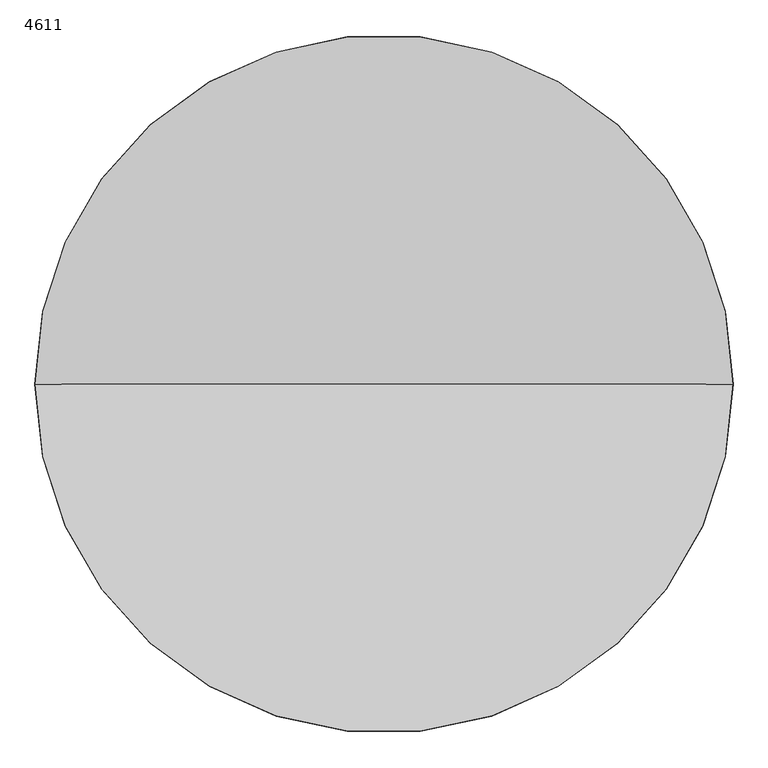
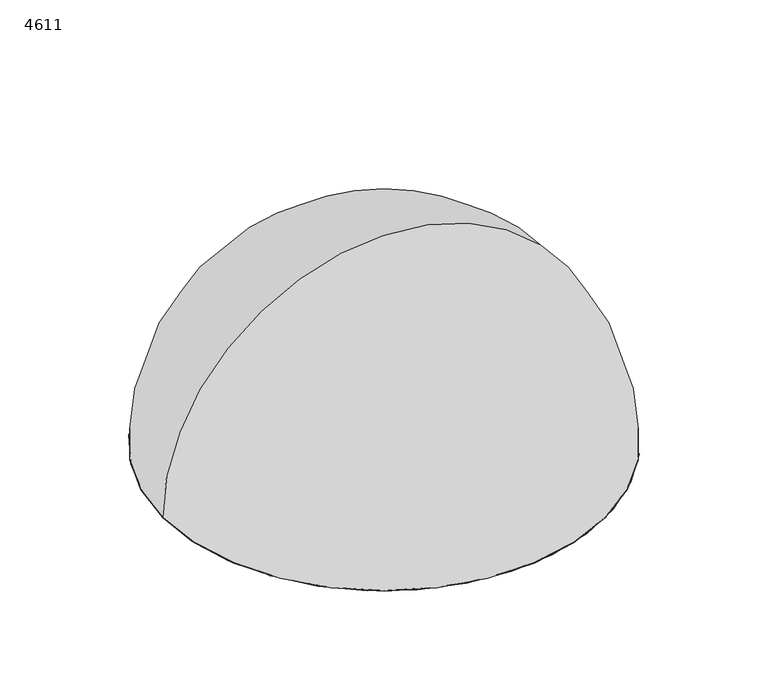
"""IFC4 building model written with IfcOpenShell, lengths in millimetres: alarm geometry, 4611_Wireless Smoke Detector with Siren : 4611."""

from ifc_helpers import new_model, si_unit, point, frame, frame_2d, origin, origin_with_axes, origin_2d, place, context, project, spatial, circle_curve, ellipse_curve, trimmed, segment, composite_curve, outline, extrude, source, transform, mapped, element, save
from ifc_brep_helpers import plane_surface, revolved_surface, advanced_brep


def alarm_4611_5c380d62(model_context):
    return source(origin(), model_context, "Body", "SolidModel", [
        extrude(outline(composite_curve([segment(trimmed(circle_curve(origin_2d(), 25.0), [point((-25.0, 0.0))], [point((25.0, 0.0))], False, "CARTESIAN"), True, "CONTINUOUS"), segment(trimmed(circle_curve(origin_2d(), 25.0), [point((25.0, 0.0))], [point((-25.0, 0.0))], False, "CARTESIAN"), True, "CONTINUOUS")], self_intersect=False), holes=[composite_curve([segment(trimmed(circle_curve(origin_2d(), 0.993292), [point((-0.993292, 0.0))], [point((0.993292, 0.0))], True, "CARTESIAN"), True, "CONTINUOUS"), segment(trimmed(circle_curve(origin_2d(), 0.993292), [point((0.993292, 0.0))], [point((-0.993292, 0.0))], True, "CARTESIAN"), True, "CONTINUOUS")], self_intersect=False), composite_curve([segment(trimmed(circle_curve(frame_2d((-2.5895904, 1.4061383)), 0.8), [point((-3.3895904, 1.4061383))], [point((-1.7895904, 1.4061383))], True, "CARTESIAN"), True, "CONTINUOUS"), segment(trimmed(circle_curve(frame_2d((-2.5895904, 1.4061383)), 0.8), [point((-1.7895904, 1.4061383))], [point((-3.3895904, 1.4061383))], True, "CARTESIAN"), True, "CONTINUOUS")], self_intersect=False), composite_curve([segment(trimmed(circle_curve(frame_2d((-5.1791808, 2.8122766)), 0.8), [point((-5.9791808, 2.8122766))], [point((-4.3791808, 2.8122766))], True, "CARTESIAN"), True, "CONTINUOUS"), segment(trimmed(circle_curve(frame_2d((-5.1791808, 2.8122766)), 0.8), [point((-4.3791808, 2.8122766))], [point((-5.9791808, 2.8122766))], True, "CARTESIAN"), True, "CONTINUOUS")], self_intersect=False), composite_curve([segment(trimmed(circle_curve(frame_2d((-7.7687712, 4.2184149)), 0.8), [point((-8.5687712, 4.2184149))], [point((-6.9687712, 4.2184149))], True, "CARTESIAN"), True, "CONTINUOUS"), segment(trimmed(circle_curve(frame_2d((-7.7687712, 4.2184149)), 0.8), [point((-6.9687712, 4.2184149))], [point((-8.5687712, 4.2184149))], True, "CARTESIAN"), True, "CONTINUOUS")], self_intersect=False), composite_curve([segment(trimmed(circle_curve(frame_2d((-10.3583616, 5.6245532)), 0.8), [point((-11.1583616, 5.6245532))], [point((-9.5583616, 5.6245532))], True, "CARTESIAN"), True, "CONTINUOUS"), segment(trimmed(circle_curve(frame_2d((-10.3583616, 5.6245532)), 0.8), [point((-9.5583616, 5.6245532))], [point((-11.1583616, 5.6245532))], True, "CARTESIAN"), True, "CONTINUOUS")], self_intersect=False), composite_curve([segment(trimmed(circle_curve(frame_2d((-12.947952, 7.0306915)), 0.8), [point((-13.747952, 7.0306915))], [point((-12.147952, 7.0306915))], True, "CARTESIAN"), True, "CONTINUOUS"), segment(trimmed(circle_curve(frame_2d((-12.947952, 7.0306915)), 0.8), [point((-12.147952, 7.0306915))], [point((-13.747952, 7.0306915))], True, "CARTESIAN"), True, "CONTINUOUS")], self_intersect=False), composite_curve([segment(trimmed(circle_curve(frame_2d((-2.5895904, -1.4061383)), 0.8), [point((-3.3895904, -1.4061383))], [point((-1.7895904, -1.4061383))], True, "CARTESIAN"), True, "CONTINUOUS"), segment(trimmed(circle_curve(frame_2d((-2.5895904, -1.4061383)), 0.8), [point((-1.7895904, -1.4061383))], [point((-3.3895904, -1.4061383))], True, "CARTESIAN"), True, "CONTINUOUS")], self_intersect=False), composite_curve([segment(trimmed(circle_curve(frame_2d((-5.1791808, -2.8122766)), 0.8), [point((-5.9791808, -2.8122766))], [point((-4.3791808, -2.8122766))], True, "CARTESIAN"), True, "CONTINUOUS"), segment(trimmed(circle_curve(frame_2d((-5.1791808, -2.8122766)), 0.8), [point((-4.3791808, -2.8122766))], [point((-5.9791808, -2.8122766))], True, "CARTESIAN"), True, "CONTINUOUS")], self_intersect=False), composite_curve([segment(trimmed(circle_curve(frame_2d((-7.7687712, -4.2184149)), 0.8), [point((-8.5687712, -4.2184149))], [point((-6.9687712, -4.2184149))], True, "CARTESIAN"), True, "CONTINUOUS"), segment(trimmed(circle_curve(frame_2d((-7.7687712, -4.2184149)), 0.8), [point((-6.9687712, -4.2184149))], [point((-8.5687712, -4.2184149))], True, "CARTESIAN"), True, "CONTINUOUS")], self_intersect=False), composite_curve([segment(trimmed(circle_curve(frame_2d((-10.3583616, -5.6245532)), 0.8), [point((-11.1583616, -5.6245532))], [point((-9.5583616, -5.6245532))], True, "CARTESIAN"), True, "CONTINUOUS"), segment(trimmed(circle_curve(frame_2d((-10.3583616, -5.6245532)), 0.8), [point((-9.5583616, -5.6245532))], [point((-11.1583616, -5.6245532))], True, "CARTESIAN"), True, "CONTINUOUS")], self_intersect=False), composite_curve([segment(trimmed(circle_curve(frame_2d((-12.947952, -7.0306915)), 0.8), [point((-13.747952, -7.0306915))], [point((-12.147952, -7.0306915))], True, "CARTESIAN"), True, "CONTINUOUS"), segment(trimmed(circle_curve(frame_2d((-12.947952, -7.0306915)), 0.8), [point((-12.147952, -7.0306915))], [point((-13.747952, -7.0306915))], True, "CARTESIAN"), True, "CONTINUOUS")], self_intersect=False), composite_curve([segment(trimmed(circle_curve(frame_2d((2.5895904, 1.4061383)), 0.8), [point((3.3895904, 1.4061383))], [point((1.7895904, 1.4061383))], True, "CARTESIAN"), True, "CONTINUOUS"), segment(trimmed(circle_curve(frame_2d((2.5895904, 1.4061383)), 0.8), [point((1.7895904, 1.4061383))], [point((3.3895904, 1.4061383))], True, "CARTESIAN"), True, "CONTINUOUS")], self_intersect=False), composite_curve([segment(trimmed(circle_curve(frame_2d((5.1791808, 2.8122766)), 0.8), [point((5.9791808, 2.8122766))], [point((4.3791808, 2.8122766))], True, "CARTESIAN"), True, "CONTINUOUS"), segment(trimmed(circle_curve(frame_2d((5.1791808, 2.8122766)), 0.8), [point((4.3791808, 2.8122766))], [point((5.9791808, 2.8122766))], True, "CARTESIAN"), True, "CONTINUOUS")], self_intersect=False), composite_curve([segment(trimmed(circle_curve(frame_2d((7.7687712, 4.2184149)), 0.8), [point((8.5687712, 4.2184149))], [point((6.9687712, 4.2184149))], True, "CARTESIAN"), True, "CONTINUOUS"), segment(trimmed(circle_curve(frame_2d((7.7687712, 4.2184149)), 0.8), [point((6.9687712, 4.2184149))], [point((8.5687712, 4.2184149))], True, "CARTESIAN"), True, "CONTINUOUS")], self_intersect=False), composite_curve([segment(trimmed(circle_curve(frame_2d((10.3583616, 5.6245532)), 0.8), [point((11.1583616, 5.6245532))], [point((9.5583616, 5.6245532))], True, "CARTESIAN"), True, "CONTINUOUS"), segment(trimmed(circle_curve(frame_2d((10.3583616, 5.6245532)), 0.8), [point((9.5583616, 5.6245532))], [point((11.1583616, 5.6245532))], True, "CARTESIAN"), True, "CONTINUOUS")], self_intersect=False), composite_curve([segment(trimmed(circle_curve(frame_2d((12.947952, 7.0306915)), 0.8), [point((13.747952, 7.0306915))], [point((12.147952, 7.0306915))], True, "CARTESIAN"), True, "CONTINUOUS"), segment(trimmed(circle_curve(frame_2d((12.947952, 7.0306915)), 0.8), [point((12.147952, 7.0306915))], [point((13.747952, 7.0306915))], True, "CARTESIAN"), True, "CONTINUOUS")], self_intersect=False), composite_curve([segment(trimmed(circle_curve(frame_2d((2.5895904, -1.4061383)), 0.8), [point((3.3895904, -1.4061383))], [point((1.7895904, -1.4061383))], True, "CARTESIAN"), True, "CONTINUOUS"), segment(trimmed(circle_curve(frame_2d((2.5895904, -1.4061383)), 0.8), [point((1.7895904, -1.4061383))], [point((3.3895904, -1.4061383))], True, "CARTESIAN"), True, "CONTINUOUS")], self_intersect=False), composite_curve([segment(trimmed(circle_curve(frame_2d((5.1791808, -2.8122766)), 0.8), [point((5.9791808, -2.8122766))], [point((4.3791808, -2.8122766))], True, "CARTESIAN"), True, "CONTINUOUS"), segment(trimmed(circle_curve(frame_2d((5.1791808, -2.8122766)), 0.8), [point((4.3791808, -2.8122766))], [point((5.9791808, -2.8122766))], True, "CARTESIAN"), True, "CONTINUOUS")], self_intersect=False), composite_curve([segment(trimmed(circle_curve(frame_2d((7.7687712, -4.2184149)), 0.8), [point((8.5687712, -4.2184149))], [point((6.9687712, -4.2184149))], True, "CARTESIAN"), True, "CONTINUOUS"), segment(trimmed(circle_curve(frame_2d((7.7687712, -4.2184149)), 0.8), [point((6.9687712, -4.2184149))], [point((8.5687712, -4.2184149))], True, "CARTESIAN"), True, "CONTINUOUS")], self_intersect=False), composite_curve([segment(trimmed(circle_curve(frame_2d((10.3583616, -5.6245532)), 0.8), [point((11.1583616, -5.6245532))], [point((9.5583616, -5.6245532))], True, "CARTESIAN"), True, "CONTINUOUS"), segment(trimmed(circle_curve(frame_2d((10.3583616, -5.6245532)), 0.8), [point((9.5583616, -5.6245532))], [point((11.1583616, -5.6245532))], True, "CARTESIAN"), True, "CONTINUOUS")], self_intersect=False), composite_curve([segment(trimmed(circle_curve(frame_2d((12.947952, -7.0306915)), 0.8), [point((13.747952, -7.0306915))], [point((12.147952, -7.0306915))], True, "CARTESIAN"), True, "CONTINUOUS"), segment(trimmed(circle_curve(frame_2d((12.947952, -7.0306915)), 0.8), [point((12.147952, -7.0306915))], [point((13.747952, -7.0306915))], True, "CARTESIAN"), True, "CONTINUOUS")], self_intersect=False), composite_curve([segment(trimmed(circle_curve(frame_2d((0.0770437, -2.9457202)), 0.8), [point((0.4770437, -3.6385405))], [point((-0.3229563, -2.2528999))], True, "CARTESIAN"), True, "CONTINUOUS"), segment(trimmed(circle_curve(frame_2d((0.0770437, -2.9457202)), 0.8), [point((-0.3229563, -2.2528999))], [point((0.4770437, -3.6385405))], True, "CARTESIAN"), True, "CONTINUOUS")], self_intersect=False), composite_curve([segment(trimmed(circle_curve(frame_2d((0.0770437, 2.9457202)), 0.8), [point((0.4770437, 3.6385405))], [point((-0.3229563, 2.2528999))], True, "CARTESIAN"), True, "CONTINUOUS"), segment(trimmed(circle_curve(frame_2d((0.0770437, 2.9457202)), 0.8), [point((-0.3229563, 2.2528999))], [point((0.4770437, 3.6385405))], True, "CARTESIAN"), True, "CONTINUOUS")], self_intersect=False), composite_curve([segment(trimmed(circle_curve(frame_2d((0.1540874, 5.8914405)), 0.8), [point((0.5540874, 6.5842608))], [point((-0.2459126, 5.1986201))], True, "CARTESIAN"), True, "CONTINUOUS"), segment(trimmed(circle_curve(frame_2d((0.1540874, 5.8914405)), 0.8), [point((-0.2459126, 5.1986201))], [point((0.5540874, 6.5842608))], True, "CARTESIAN"), True, "CONTINUOUS")], self_intersect=False), composite_curve([segment(trimmed(circle_curve(frame_2d((0.2311312, 8.8371607)), 0.8), [point((0.6311312, 9.529981))], [point((-0.1688688, 8.1443404))], True, "CARTESIAN"), True, "CONTINUOUS"), segment(trimmed(circle_curve(frame_2d((0.2311312, 8.8371607)), 0.8), [point((-0.1688688, 8.1443404))], [point((0.6311312, 9.529981))], True, "CARTESIAN"), True, "CONTINUOUS")], self_intersect=False), composite_curve([segment(trimmed(circle_curve(frame_2d((0.3081749, 11.7828809)), 0.8), [point((0.7081749, 12.4757012))], [point((-0.0918251, 11.0900606))], True, "CARTESIAN"), True, "CONTINUOUS"), segment(trimmed(circle_curve(frame_2d((0.3081749, 11.7828809)), 0.8), [point((-0.0918251, 11.0900606))], [point((0.7081749, 12.4757012))], True, "CARTESIAN"), True, "CONTINUOUS")], self_intersect=False), composite_curve([segment(trimmed(circle_curve(frame_2d((0.3852186, 14.7286011)), 0.8), [point((0.7852186, 15.4214215))], [point((-0.0147814, 14.0357808))], True, "CARTESIAN"), True, "CONTINUOUS"), segment(trimmed(circle_curve(frame_2d((0.3852186, 14.7286011)), 0.8), [point((-0.0147814, 14.0357808))], [point((0.7852186, 15.4214215))], True, "CARTESIAN"), True, "CONTINUOUS")], self_intersect=False), composite_curve([segment(trimmed(circle_curve(frame_2d((0.1540874, -5.8914405)), 0.8), [point((0.5540874, -6.5842608))], [point((-0.2459126, -5.1986201))], True, "CARTESIAN"), True, "CONTINUOUS"), segment(trimmed(circle_curve(frame_2d((0.1540874, -5.8914405)), 0.8), [point((-0.2459126, -5.1986201))], [point((0.5540874, -6.5842608))], True, "CARTESIAN"), True, "CONTINUOUS")], self_intersect=False), composite_curve([segment(trimmed(circle_curve(frame_2d((0.2311312, -8.8371607)), 0.8), [point((0.6311312, -9.529981))], [point((-0.1688688, -8.1443404))], True, "CARTESIAN"), True, "CONTINUOUS"), segment(trimmed(circle_curve(frame_2d((0.2311312, -8.8371607)), 0.8), [point((-0.1688688, -8.1443404))], [point((0.6311312, -9.529981))], True, "CARTESIAN"), True, "CONTINUOUS")], self_intersect=False), composite_curve([segment(trimmed(circle_curve(frame_2d((0.3081749, -11.7828809)), 0.8), [point((0.7081749, -12.4757012))], [point((-0.0918251, -11.0900606))], True, "CARTESIAN"), True, "CONTINUOUS"), segment(trimmed(circle_curve(frame_2d((0.3081749, -11.7828809)), 0.8), [point((-0.0918251, -11.0900606))], [point((0.7081749, -12.4757012))], True, "CARTESIAN"), True, "CONTINUOUS")], self_intersect=False), composite_curve([segment(trimmed(circle_curve(frame_2d((0.3852186, -14.7286011)), 0.8), [point((0.7852186, -15.4214215))], [point((-0.0147814, -14.0357808))], True, "CARTESIAN"), True, "CONTINUOUS"), segment(trimmed(circle_curve(frame_2d((0.3852186, -14.7286011)), 0.8), [point((-0.0147814, -14.0357808))], [point((0.7852186, -15.4214215))], True, "CARTESIAN"), True, "CONTINUOUS")], self_intersect=False), composite_curve([segment(trimmed(circle_curve(frame_2d((-6.2462524, -0.1194786)), 0.8), [point((-7.0462524, -0.1194786))], [point((-5.4462524, -0.1194786))], True, "CARTESIAN"), True, "CONTINUOUS"), segment(trimmed(circle_curve(frame_2d((-6.2462524, -0.1194786)), 0.8), [point((-5.4462524, -0.1194786))], [point((-7.0462524, -0.1194786))], True, "CARTESIAN"), True, "CONTINUOUS")], self_intersect=False), composite_curve([segment(trimmed(circle_curve(frame_2d((-8.9897143, 1.4644599)), 0.8), [point((-9.7897143, 1.4644599))], [point((-8.1897143, 1.4644599))], True, "CARTESIAN"), True, "CONTINUOUS"), segment(trimmed(circle_curve(frame_2d((-8.9897143, 1.4644599)), 0.8), [point((-8.1897143, 1.4644599))], [point((-9.7897143, 1.4644599))], True, "CARTESIAN"), True, "CONTINUOUS")], self_intersect=False), composite_curve([segment(trimmed(circle_curve(frame_2d((-8.9897143, -1.5535271)), 0.8), [point((-9.7897143, -1.5535271))], [point((-8.1897143, -1.5535271))], True, "CARTESIAN"), True, "CONTINUOUS"), segment(trimmed(circle_curve(frame_2d((-8.9897143, -1.5535271)), 0.8), [point((-8.1897143, -1.5535271))], [point((-9.7897143, -1.5535271))], True, "CARTESIAN"), True, "CONTINUOUS")], self_intersect=False), composite_curve([segment(trimmed(circle_curve(frame_2d((-11.8348046, -3.1961407)), 0.8), [point((-12.6348046, -3.1961407))], [point((-11.0348046, -3.1961407))], True, "CARTESIAN"), True, "CONTINUOUS"), segment(trimmed(circle_curve(frame_2d((-11.8348046, -3.1961407)), 0.8), [point((-11.0348046, -3.1961407))], [point((-12.6348046, -3.1961407))], True, "CARTESIAN"), True, "CONTINUOUS")], self_intersect=False), composite_curve([segment(trimmed(circle_curve(frame_2d((-12.1074802, -0.0794443)), 0.8), [point((-12.9074802, -0.0794443))], [point((-11.3074802, -0.0794443))], True, "CARTESIAN"), True, "CONTINUOUS"), segment(trimmed(circle_curve(frame_2d((-12.1074802, -0.0794443)), 0.8), [point((-11.3074802, -0.0794443))], [point((-12.9074802, -0.0794443))], True, "CARTESIAN"), True, "CONTINUOUS")], self_intersect=False), composite_curve([segment(trimmed(circle_curve(frame_2d((-11.837374, 3.0078843)), 0.8), [point((-12.637374, 3.0078843))], [point((-11.037374, 3.0078843))], True, "CARTESIAN"), True, "CONTINUOUS"), segment(trimmed(circle_curve(frame_2d((-11.837374, 3.0078843)), 0.8), [point((-11.037374, 3.0078843))], [point((-12.637374, 3.0078843))], True, "CARTESIAN"), True, "CONTINUOUS")], self_intersect=False), composite_curve([segment(trimmed(circle_curve(frame_2d((-14.34077, 4.1752371)), 0.8), [point((-15.14077, 4.1752371))], [point((-13.54077, 4.1752371))], True, "CARTESIAN"), True, "CONTINUOUS"), segment(trimmed(circle_curve(frame_2d((-14.34077, 4.1752371)), 0.8), [point((-13.54077, 4.1752371))], [point((-15.14077, 4.1752371))], True, "CARTESIAN"), True, "CONTINUOUS")], self_intersect=False), composite_curve([segment(trimmed(circle_curve(frame_2d((-15.1438852, 1.1779703)), 0.8), [point((-15.9438852, 1.1779703))], [point((-14.3438852, 1.1779703))], True, "CARTESIAN"), True, "CONTINUOUS"), segment(trimmed(circle_curve(frame_2d((-15.1438852, 1.1779703)), 0.8), [point((-14.3438852, 1.1779703))], [point((-15.9438852, 1.1779703))], True, "CARTESIAN"), True, "CONTINUOUS")], self_intersect=False), composite_curve([segment(trimmed(circle_curve(frame_2d((-15.1438852, -1.9598847)), 0.8), [point((-15.9438852, -1.9598847))], [point((-14.3438852, -1.9598847))], True, "CARTESIAN"), True, "CONTINUOUS"), segment(trimmed(circle_curve(frame_2d((-15.1438852, -1.9598847)), 0.8), [point((-14.3438852, -1.9598847))], [point((-15.9438852, -1.9598847))], True, "CARTESIAN"), True, "CONTINUOUS")], self_intersect=False), composite_curve([segment(trimmed(circle_curve(frame_2d((-14.647898, -4.7727679)), 0.8), [point((-15.447898, -4.7727679))], [point((-13.847898, -4.7727679))], True, "CARTESIAN"), True, "CONTINUOUS"), segment(trimmed(circle_curve(frame_2d((-14.647898, -4.7727679)), 0.8), [point((-13.847898, -4.7727679))], [point((-15.447898, -4.7727679))], True, "CARTESIAN"), True, "CONTINUOUS")], self_intersect=False), composite_curve([segment(trimmed(circle_curve(frame_2d((6.2462524, -0.1194786)), 0.8), [point((7.0462524, -0.1194786))], [point((5.4462524, -0.1194786))], True, "CARTESIAN"), True, "CONTINUOUS"), segment(trimmed(circle_curve(frame_2d((6.2462524, -0.1194786)), 0.8), [point((5.4462524, -0.1194786))], [point((7.0462524, -0.1194786))], True, "CARTESIAN"), True, "CONTINUOUS")], self_intersect=False), composite_curve([segment(trimmed(circle_curve(frame_2d((8.9897143, 1.4644599)), 0.8), [point((9.7897143, 1.4644599))], [point((8.1897143, 1.4644599))], True, "CARTESIAN"), True, "CONTINUOUS"), segment(trimmed(circle_curve(frame_2d((8.9897143, 1.4644599)), 0.8), [point((8.1897143, 1.4644599))], [point((9.7897143, 1.4644599))], True, "CARTESIAN"), True, "CONTINUOUS")], self_intersect=False), composite_curve([segment(trimmed(circle_curve(frame_2d((8.9897143, -1.5535271)), 0.8), [point((9.7897143, -1.5535271))], [point((8.1897143, -1.5535271))], True, "CARTESIAN"), True, "CONTINUOUS"), segment(trimmed(circle_curve(frame_2d((8.9897143, -1.5535271)), 0.8), [point((8.1897143, -1.5535271))], [point((9.7897143, -1.5535271))], True, "CARTESIAN"), True, "CONTINUOUS")], self_intersect=False), composite_curve([segment(trimmed(circle_curve(frame_2d((11.8348046, -3.1961407)), 0.8), [point((12.6348046, -3.1961407))], [point((11.0348046, -3.1961407))], True, "CARTESIAN"), True, "CONTINUOUS"), segment(trimmed(circle_curve(frame_2d((11.8348046, -3.1961407)), 0.8), [point((11.0348046, -3.1961407))], [point((12.6348046, -3.1961407))], True, "CARTESIAN"), True, "CONTINUOUS")], self_intersect=False), composite_curve([segment(trimmed(circle_curve(frame_2d((12.1074802, -0.0794443)), 0.8), [point((12.9074802, -0.0794443))], [point((11.3074802, -0.0794443))], True, "CARTESIAN"), True, "CONTINUOUS"), segment(trimmed(circle_curve(frame_2d((12.1074802, -0.0794443)), 0.8), [point((11.3074802, -0.0794443))], [point((12.9074802, -0.0794443))], True, "CARTESIAN"), True, "CONTINUOUS")], self_intersect=False), composite_curve([segment(trimmed(circle_curve(frame_2d((11.837374, 3.0078843)), 0.8), [point((12.637374, 3.0078843))], [point((11.037374, 3.0078843))], True, "CARTESIAN"), True, "CONTINUOUS"), segment(trimmed(circle_curve(frame_2d((11.837374, 3.0078843)), 0.8), [point((11.037374, 3.0078843))], [point((12.637374, 3.0078843))], True, "CARTESIAN"), True, "CONTINUOUS")], self_intersect=False), composite_curve([segment(trimmed(circle_curve(frame_2d((14.34077, 4.1752371)), 0.8), [point((15.14077, 4.1752371))], [point((13.54077, 4.1752371))], True, "CARTESIAN"), True, "CONTINUOUS"), segment(trimmed(circle_curve(frame_2d((14.34077, 4.1752371)), 0.8), [point((13.54077, 4.1752371))], [point((15.14077, 4.1752371))], True, "CARTESIAN"), True, "CONTINUOUS")], self_intersect=False), composite_curve([segment(trimmed(circle_curve(frame_2d((15.1438852, 1.1779703)), 0.8), [point((15.9438852, 1.1779703))], [point((14.3438852, 1.1779703))], True, "CARTESIAN"), True, "CONTINUOUS"), segment(trimmed(circle_curve(frame_2d((15.1438852, 1.1779703)), 0.8), [point((14.3438852, 1.1779703))], [point((15.9438852, 1.1779703))], True, "CARTESIAN"), True, "CONTINUOUS")], self_intersect=False), composite_curve([segment(trimmed(circle_curve(frame_2d((15.1438852, -1.9598847)), 0.8), [point((15.9438852, -1.9598847))], [point((14.3438852, -1.9598847))], True, "CARTESIAN"), True, "CONTINUOUS"), segment(trimmed(circle_curve(frame_2d((15.1438852, -1.9598847)), 0.8), [point((14.3438852, -1.9598847))], [point((15.9438852, -1.9598847))], True, "CARTESIAN"), True, "CONTINUOUS")], self_intersect=False), composite_curve([segment(trimmed(circle_curve(frame_2d((14.647898, -4.7727679)), 0.8), [point((15.447898, -4.7727679))], [point((13.847898, -4.7727679))], True, "CARTESIAN"), True, "CONTINUOUS"), segment(trimmed(circle_curve(frame_2d((14.647898, -4.7727679)), 0.8), [point((13.847898, -4.7727679))], [point((15.447898, -4.7727679))], True, "CARTESIAN"), True, "CONTINUOUS")], self_intersect=False), composite_curve([segment(trimmed(circle_curve(frame_2d((3.3014162, 5.3038284)), 0.8), [point((3.7370853, 5.9747922))], [point((2.8657472, 4.6328645))], True, "CARTESIAN"), True, "CONTINUOUS"), segment(trimmed(circle_curve(frame_2d((3.3014162, 5.3038284)), 0.8), [point((2.8657472, 4.6328645))], [point((3.7370853, 5.9747922))], True, "CARTESIAN"), True, "CONTINUOUS")], self_intersect=False), composite_curve([segment(trimmed(circle_curve(frame_2d((6.1239248, 6.7421919)), 0.8), [point((6.5595939, 7.4131557))], [point((5.6882558, 6.071228))], True, "CARTESIAN"), True, "CONTINUOUS"), segment(trimmed(circle_curve(frame_2d((6.1239248, 6.7421919)), 0.8), [point((5.6882558, 6.071228))], [point((6.5595939, 7.4131557))], True, "CARTESIAN"), True, "CONTINUOUS")], self_intersect=False), composite_curve([segment(trimmed(circle_curve(frame_2d((3.5927246, 8.3857462)), 0.8), [point((4.0283937, 9.0567101))], [point((3.1570556, 7.7147824))], True, "CARTESIAN"), True, "CONTINUOUS"), segment(trimmed(circle_curve(frame_2d((3.5927246, 8.3857462)), 0.8), [point((3.1570556, 7.7147824))], [point((4.0283937, 9.0567101))], True, "CARTESIAN"), True, "CONTINUOUS")], self_intersect=False), composite_curve([segment(trimmed(circle_curve(frame_2d((3.7644538, 11.666482)), 0.8), [point((4.2001229, 12.3374459))], [point((3.3287848, 10.9955182))], True, "CARTESIAN"), True, "CONTINUOUS"), segment(trimmed(circle_curve(frame_2d((3.7644538, 11.666482)), 0.8), [point((3.3287848, 10.9955182))], [point((4.2001229, 12.3374459))], True, "CARTESIAN"), True, "CONTINUOUS")], self_intersect=False), composite_curve([segment(trimmed(circle_curve(frame_2d((6.5269375, 10.1978662)), 0.8), [point((6.9626065, 10.8688301))], [point((6.0912685, 9.5269024))], True, "CARTESIAN"), True, "CONTINUOUS"), segment(trimmed(circle_curve(frame_2d((6.5269375, 10.1978662)), 0.8), [point((6.0912685, 9.5269024))], [point((6.9626065, 10.8688301))], True, "CARTESIAN"), True, "CONTINUOUS")], self_intersect=False), composite_curve([segment(trimmed(circle_curve(frame_2d((8.9691987, 8.2900099)), 0.8), [point((9.4048678, 8.9609738))], [point((8.5335297, 7.6190461))], True, "CARTESIAN"), True, "CONTINUOUS"), segment(trimmed(circle_curve(frame_2d((8.9691987, 8.2900099)), 0.8), [point((8.5335297, 7.6190461))], [point((9.4048678, 8.9609738))], True, "CARTESIAN"), True, "CONTINUOUS")], self_intersect=False), composite_curve([segment(trimmed(circle_curve(frame_2d((11.3115783, 9.7538959)), 0.8), [point((11.7472473, 10.4248598))], [point((10.8759092, 9.0829321))], True, "CARTESIAN"), True, "CONTINUOUS"), segment(trimmed(circle_curve(frame_2d((11.3115783, 9.7538959)), 0.8), [point((10.8759092, 9.0829321))], [point((11.7472473, 10.4248598))], True, "CARTESIAN"), True, "CONTINUOUS")], self_intersect=False), composite_curve([segment(trimmed(circle_curve(frame_2d((9.2351218, 12.0597429)), 0.8), [point((9.6707908, 12.7307068))], [point((8.7994527, 11.3887791))], True, "CARTESIAN"), True, "CONTINUOUS"), segment(trimmed(circle_curve(frame_2d((9.2351218, 12.0597429)), 0.8), [point((8.7994527, 11.3887791))], [point((9.6707908, 12.7307068))], True, "CARTESIAN"), True, "CONTINUOUS")], self_intersect=False), composite_curve([segment(trimmed(circle_curve(frame_2d((6.6033876, 13.7685758)), 0.8), [point((7.0390567, 14.4395396))], [point((6.1677186, 13.0976119))], True, "CARTESIAN"), True, "CONTINUOUS"), segment(trimmed(circle_curve(frame_2d((6.6033876, 13.7685758)), 0.8), [point((6.1677186, 13.0976119))], [point((7.0390567, 14.4395396))], True, "CARTESIAN"), True, "CONTINUOUS")], self_intersect=False), composite_curve([segment(trimmed(circle_curve(frame_2d((3.9741011, 14.8844466)), 0.8), [point((4.4097701, 15.5554104))], [point((3.5384321, 14.2134827))], True, "CARTESIAN"), True, "CONTINUOUS"), segment(trimmed(circle_curve(frame_2d((3.9741011, 14.8844466)), 0.8), [point((3.5384321, 14.2134827))], [point((4.4097701, 15.5554104))], True, "CARTESIAN"), True, "CONTINUOUS")], self_intersect=False), composite_curve([segment(trimmed(circle_curve(frame_2d((-3.3014162, 5.3038284)), 0.8), [point((-3.7370853, 5.9747922))], [point((-2.8657472, 4.6328645))], True, "CARTESIAN"), True, "CONTINUOUS"), segment(trimmed(circle_curve(frame_2d((-3.3014162, 5.3038284)), 0.8), [point((-2.8657472, 4.6328645))], [point((-3.7370853, 5.9747922))], True, "CARTESIAN"), True, "CONTINUOUS")], self_intersect=False), composite_curve([segment(trimmed(circle_curve(frame_2d((-6.1239248, 6.7421919)), 0.8), [point((-6.5595939, 7.4131557))], [point((-5.6882558, 6.071228))], True, "CARTESIAN"), True, "CONTINUOUS"), segment(trimmed(circle_curve(frame_2d((-6.1239248, 6.7421919)), 0.8), [point((-5.6882558, 6.071228))], [point((-6.5595939, 7.4131557))], True, "CARTESIAN"), True, "CONTINUOUS")], self_intersect=False), composite_curve([segment(trimmed(circle_curve(frame_2d((-3.5927246, 8.3857462)), 0.8), [point((-4.0283937, 9.0567101))], [point((-3.1570556, 7.7147824))], True, "CARTESIAN"), True, "CONTINUOUS"), segment(trimmed(circle_curve(frame_2d((-3.5927246, 8.3857462)), 0.8), [point((-3.1570556, 7.7147824))], [point((-4.0283937, 9.0567101))], True, "CARTESIAN"), True, "CONTINUOUS")], self_intersect=False), composite_curve([segment(trimmed(circle_curve(frame_2d((-3.7644538, 11.666482)), 0.8), [point((-4.2001229, 12.3374459))], [point((-3.3287848, 10.9955182))], True, "CARTESIAN"), True, "CONTINUOUS"), segment(trimmed(circle_curve(frame_2d((-3.7644538, 11.666482)), 0.8), [point((-3.3287848, 10.9955182))], [point((-4.2001229, 12.3374459))], True, "CARTESIAN"), True, "CONTINUOUS")], self_intersect=False), composite_curve([segment(trimmed(circle_curve(frame_2d((-6.5269375, 10.1978662)), 0.8), [point((-6.9626065, 10.8688301))], [point((-6.0912685, 9.5269024))], True, "CARTESIAN"), True, "CONTINUOUS"), segment(trimmed(circle_curve(frame_2d((-6.5269375, 10.1978662)), 0.8), [point((-6.0912685, 9.5269024))], [point((-6.9626065, 10.8688301))], True, "CARTESIAN"), True, "CONTINUOUS")], self_intersect=False), composite_curve([segment(trimmed(circle_curve(frame_2d((-8.9691987, 8.2900099)), 0.8), [point((-9.4048678, 8.9609738))], [point((-8.5335297, 7.6190461))], True, "CARTESIAN"), True, "CONTINUOUS"), segment(trimmed(circle_curve(frame_2d((-8.9691987, 8.2900099)), 0.8), [point((-8.5335297, 7.6190461))], [point((-9.4048678, 8.9609738))], True, "CARTESIAN"), True, "CONTINUOUS")], self_intersect=False), composite_curve([segment(trimmed(circle_curve(frame_2d((-11.3115783, 9.7538959)), 0.8), [point((-11.7472473, 10.4248598))], [point((-10.8759092, 9.0829321))], True, "CARTESIAN"), True, "CONTINUOUS"), segment(trimmed(circle_curve(frame_2d((-11.3115783, 9.7538959)), 0.8), [point((-10.8759092, 9.0829321))], [point((-11.7472473, 10.4248598))], True, "CARTESIAN"), True, "CONTINUOUS")], self_intersect=False), composite_curve([segment(trimmed(circle_curve(frame_2d((-9.2351218, 12.0597429)), 0.8), [point((-9.6707908, 12.7307068))], [point((-8.7994527, 11.3887791))], True, "CARTESIAN"), True, "CONTINUOUS"), segment(trimmed(circle_curve(frame_2d((-9.2351218, 12.0597429)), 0.8), [point((-8.7994527, 11.3887791))], [point((-9.6707908, 12.7307068))], True, "CARTESIAN"), True, "CONTINUOUS")], self_intersect=False), composite_curve([segment(trimmed(circle_curve(frame_2d((-6.6033876, 13.7685758)), 0.8), [point((-7.0390567, 14.4395396))], [point((-6.1677186, 13.0976119))], True, "CARTESIAN"), True, "CONTINUOUS"), segment(trimmed(circle_curve(frame_2d((-6.6033876, 13.7685758)), 0.8), [point((-6.1677186, 13.0976119))], [point((-7.0390567, 14.4395396))], True, "CARTESIAN"), True, "CONTINUOUS")], self_intersect=False), composite_curve([segment(trimmed(circle_curve(frame_2d((-3.9741011, 14.8844466)), 0.8), [point((-4.4097701, 15.5554104))], [point((-3.5384321, 14.2134827))], True, "CARTESIAN"), True, "CONTINUOUS"), segment(trimmed(circle_curve(frame_2d((-3.9741011, 14.8844466)), 0.8), [point((-3.5384321, 14.2134827))], [point((-4.4097701, 15.5554104))], True, "CARTESIAN"), True, "CONTINUOUS")], self_intersect=False), composite_curve([segment(trimmed(circle_curve(frame_2d((3.4316903, -4.8760559)), 0.8), [point((3.7571716, -5.6068514))], [point((3.1062091, -4.1452605))], True, "CARTESIAN"), True, "CONTINUOUS"), segment(trimmed(circle_curve(frame_2d((3.4316903, -4.8760559)), 0.8), [point((3.1062091, -4.1452605))], [point((3.7571716, -5.6068514))], True, "CARTESIAN"), True, "CONTINUOUS")], self_intersect=False), composite_curve([segment(trimmed(circle_curve(frame_2d((3.1009533, -8.0266205)), 0.8), [point((3.4264345, -8.757416))], [point((2.775472, -7.2958251))], True, "CARTESIAN"), True, "CONTINUOUS"), segment(trimmed(circle_curve(frame_2d((3.1009533, -8.0266205)), 0.8), [point((2.775472, -7.2958251))], [point((3.4264345, -8.757416))], True, "CARTESIAN"), True, "CONTINUOUS")], self_intersect=False), composite_curve([segment(trimmed(circle_curve(frame_2d((5.8578671, -6.7987479)), 0.8), [point((6.1833484, -7.5295434))], [point((5.5323859, -6.0679525))], True, "CARTESIAN"), True, "CONTINUOUS"), segment(trimmed(circle_curve(frame_2d((5.8578671, -6.7987479)), 0.8), [point((5.5323859, -6.0679525))], [point((6.1833484, -7.5295434))], True, "CARTESIAN"), True, "CONTINUOUS")], self_intersect=False), composite_curve([segment(trimmed(circle_curve(frame_2d((8.5159147, -8.7294218)), 0.8), [point((8.8413959, -9.4602172))], [point((8.1904334, -7.9986264))], True, "CARTESIAN"), True, "CONTINUOUS"), segment(trimmed(circle_curve(frame_2d((8.5159147, -8.7294218)), 0.8), [point((8.1904334, -7.9986264))], [point((8.8413959, -9.4602172))], True, "CARTESIAN"), True, "CONTINUOUS")], self_intersect=False), composite_curve([segment(trimmed(circle_curve(frame_2d((5.7797688, -10.2465421)), 0.8), [point((6.10525, -10.9773375))], [point((5.4542875, -9.5157467))], True, "CARTESIAN"), True, "CONTINUOUS"), segment(trimmed(circle_curve(frame_2d((5.7797688, -10.2465421)), 0.8), [point((5.4542875, -9.5157467))], [point((6.10525, -10.9773375))], True, "CARTESIAN"), True, "CONTINUOUS")], self_intersect=False), composite_curve([segment(trimmed(circle_curve(frame_2d((2.8496185, -11.255886)), 0.8), [point((3.1750997, -11.9866814))], [point((2.5241373, -10.5250905))], True, "CARTESIAN"), True, "CONTINUOUS"), segment(trimmed(circle_curve(frame_2d((2.8496185, -11.255886)), 0.8), [point((2.5241373, -10.5250905))], [point((3.1750997, -11.9866814))], True, "CARTESIAN"), True, "CONTINUOUS")], self_intersect=False), composite_curve([segment(trimmed(circle_curve(frame_2d((2.801759, -14.0176632)), 0.8), [point((3.1272402, -14.7484587))], [point((2.4762777, -13.2868678))], True, "CARTESIAN"), True, "CONTINUOUS"), segment(trimmed(circle_curve(frame_2d((2.801759, -14.0176632)), 0.8), [point((2.4762777, -13.2868678))], [point((3.1272402, -14.7484587))], True, "CARTESIAN"), True, "CONTINUOUS")], self_intersect=False), composite_curve([segment(trimmed(circle_curve(frame_2d((5.8664937, -13.5318618)), 0.8), [point((6.1919749, -14.2626573))], [point((5.5410124, -12.8010664))], True, "CARTESIAN"), True, "CONTINUOUS"), segment(trimmed(circle_curve(frame_2d((5.8664937, -13.5318618)), 0.8), [point((5.5410124, -12.8010664))], [point((6.1919749, -14.2626573))], True, "CARTESIAN"), True, "CONTINUOUS")], self_intersect=False), composite_curve([segment(trimmed(circle_curve(frame_2d((8.7329064, -12.2552207)), 0.8), [point((9.0583876, -12.9860161))], [point((8.4074251, -11.5244252))], True, "CARTESIAN"), True, "CONTINUOUS"), segment(trimmed(circle_curve(frame_2d((8.7329064, -12.2552207)), 0.8), [point((8.4074251, -11.5244252))], [point((9.0583876, -12.9860161))], True, "CARTESIAN"), True, "CONTINUOUS")], self_intersect=False), composite_curve([segment(trimmed(circle_curve(frame_2d((11.100666, -10.6577134)), 0.8), [point((11.4261472, -11.3885088))], [point((10.7751848, -9.9269179))], True, "CARTESIAN"), True, "CONTINUOUS"), segment(trimmed(circle_curve(frame_2d((11.100666, -10.6577134)), 0.8), [point((10.7751848, -9.9269179))], [point((11.4261472, -11.3885088))], True, "CARTESIAN"), True, "CONTINUOUS")], self_intersect=False), composite_curve([segment(trimmed(circle_curve(frame_2d((-3.4316903, -4.8760559)), 0.8), [point((-3.7571716, -5.6068514))], [point((-3.1062091, -4.1452605))], True, "CARTESIAN"), True, "CONTINUOUS"), segment(trimmed(circle_curve(frame_2d((-3.4316903, -4.8760559)), 0.8), [point((-3.1062091, -4.1452605))], [point((-3.7571716, -5.6068514))], True, "CARTESIAN"), True, "CONTINUOUS")], self_intersect=False), composite_curve([segment(trimmed(circle_curve(frame_2d((-3.1009533, -8.0266205)), 0.8), [point((-3.4264345, -8.757416))], [point((-2.775472, -7.2958251))], True, "CARTESIAN"), True, "CONTINUOUS"), segment(trimmed(circle_curve(frame_2d((-3.1009533, -8.0266205)), 0.8), [point((-2.775472, -7.2958251))], [point((-3.4264345, -8.757416))], True, "CARTESIAN"), True, "CONTINUOUS")], self_intersect=False), composite_curve([segment(trimmed(circle_curve(frame_2d((-5.8578671, -6.7987479)), 0.8), [point((-6.1833484, -7.5295434))], [point((-5.5323859, -6.0679525))], True, "CARTESIAN"), True, "CONTINUOUS"), segment(trimmed(circle_curve(frame_2d((-5.8578671, -6.7987479)), 0.8), [point((-5.5323859, -6.0679525))], [point((-6.1833484, -7.5295434))], True, "CARTESIAN"), True, "CONTINUOUS")], self_intersect=False), composite_curve([segment(trimmed(circle_curve(frame_2d((-8.5159147, -8.7294218)), 0.8), [point((-8.8413959, -9.4602172))], [point((-8.1904334, -7.9986264))], True, "CARTESIAN"), True, "CONTINUOUS"), segment(trimmed(circle_curve(frame_2d((-8.5159147, -8.7294218)), 0.8), [point((-8.1904334, -7.9986264))], [point((-8.8413959, -9.4602172))], True, "CARTESIAN"), True, "CONTINUOUS")], self_intersect=False), composite_curve([segment(trimmed(circle_curve(frame_2d((-5.7797688, -10.2465421)), 0.8), [point((-6.10525, -10.9773375))], [point((-5.4542875, -9.5157467))], True, "CARTESIAN"), True, "CONTINUOUS"), segment(trimmed(circle_curve(frame_2d((-5.7797688, -10.2465421)), 0.8), [point((-5.4542875, -9.5157467))], [point((-6.10525, -10.9773375))], True, "CARTESIAN"), True, "CONTINUOUS")], self_intersect=False), composite_curve([segment(trimmed(circle_curve(frame_2d((-2.8496185, -11.255886)), 0.8), [point((-3.1750997, -11.9866814))], [point((-2.5241373, -10.5250905))], True, "CARTESIAN"), True, "CONTINUOUS"), segment(trimmed(circle_curve(frame_2d((-2.8496185, -11.255886)), 0.8), [point((-2.5241373, -10.5250905))], [point((-3.1750997, -11.9866814))], True, "CARTESIAN"), True, "CONTINUOUS")], self_intersect=False), composite_curve([segment(trimmed(circle_curve(frame_2d((-2.801759, -14.0176632)), 0.8), [point((-3.1272402, -14.7484587))], [point((-2.4762777, -13.2868678))], True, "CARTESIAN"), True, "CONTINUOUS"), segment(trimmed(circle_curve(frame_2d((-2.801759, -14.0176632)), 0.8), [point((-2.4762777, -13.2868678))], [point((-3.1272402, -14.7484587))], True, "CARTESIAN"), True, "CONTINUOUS")], self_intersect=False), composite_curve([segment(trimmed(circle_curve(frame_2d((-5.8664937, -13.5318618)), 0.8), [point((-6.1919749, -14.2626573))], [point((-5.5410124, -12.8010664))], True, "CARTESIAN"), True, "CONTINUOUS"), segment(trimmed(circle_curve(frame_2d((-5.8664937, -13.5318618)), 0.8), [point((-5.5410124, -12.8010664))], [point((-6.1919749, -14.2626573))], True, "CARTESIAN"), True, "CONTINUOUS")], self_intersect=False), composite_curve([segment(trimmed(circle_curve(frame_2d((-8.7329064, -12.2552207)), 0.8), [point((-9.0583876, -12.9860161))], [point((-8.4074251, -11.5244252))], True, "CARTESIAN"), True, "CONTINUOUS"), segment(trimmed(circle_curve(frame_2d((-8.7329064, -12.2552207)), 0.8), [point((-8.4074251, -11.5244252))], [point((-9.0583876, -12.9860161))], True, "CARTESIAN"), True, "CONTINUOUS")], self_intersect=False), composite_curve([segment(trimmed(circle_curve(frame_2d((-11.100666, -10.6577134)), 0.8), [point((-11.4261472, -11.3885088))], [point((-10.7751848, -9.9269179))], True, "CARTESIAN"), True, "CONTINUOUS"), segment(trimmed(circle_curve(frame_2d((-11.100666, -10.6577134)), 0.8), [point((-10.7751848, -9.9269179))], [point((-11.4261472, -11.3885088))], True, "CARTESIAN"), True, "CONTINUOUS")], self_intersect=False)]), frame((0.0, 0.0, 42.9967715), z_axis=(0.0, 0.0, 1.0), x_axis=(1.0, 0.0, 0.0)), (0.0, 0.0, 1.0), 2.0032285),
        extrude(outline(composite_curve([segment(trimmed(circle_curve(origin_2d(), 50.0), [point((-50.0, 0.0))], [point((50.0, 0.0))], False, "CARTESIAN"), True, "CONTINUOUS"), segment(trimmed(circle_curve(origin_2d(), 50.0), [point((50.0, 0.0))], [point((-50.0, 0.0))], False, "CARTESIAN"), True, "CONTINUOUS")], self_intersect=False), holes=[composite_curve([segment(trimmed(circle_curve(origin_2d(), 25.0), [point((-25.0, 0.0))], [point((25.0, 0.0))], True, "CARTESIAN"), True, "CONTINUOUS"), segment(trimmed(circle_curve(origin_2d(), 25.0), [point((25.0, 0.0))], [point((-25.0, 0.0))], True, "CARTESIAN"), True, "CONTINUOUS")], self_intersect=False)]), frame((0.0, 0.0, 6.0), z_axis=(0.0, 0.0, 1.0), x_axis=(1.0, 0.0, 0.0)), (0.0, 0.0, 1.0), 17.95),
        extrude(outline(composite_curve([segment(trimmed(circle_curve(origin_2d(), 500.0), [point((-500.0, 0.0))], [point((500.0, 0.0))], False, "CARTESIAN"), True, "CONTINUOUS"), segment(trimmed(circle_curve(origin_2d(), 500.0), [point((500.0, 0.0))], [point((-500.0, 0.0))], False, "CARTESIAN"), True, "CONTINUOUS")], self_intersect=False)), origin_with_axes(), (0.0, 0.0, 1.0), 1.0),
        advanced_brep(
        [(500.0, 0.0, 0.0), (-500.0, 0.0, 0.0), (0.0, 0.0, 500.0), (0.0, 0.0, 0.0)],
        [
            (0, 1, circle_curve(frame((0.0, 0.0, 0.0), z_axis=(0.0, 0.0, 1.0), x_axis=(-1.0, 0.0, 0.0)), 500.0)),
            (1, 2, circle_curve(frame((0.0, 0.0, 0.0), z_axis=(0.0, 1.0, 0.0), x_axis=(1.0, 0.0, 0.0)), 500.0)),
            (2, 0, circle_curve(frame((0.0, 0.0, 0.0), z_axis=(0.0, 1.0, 0.0), x_axis=(-1.0, 0.0, 0.0)), 500.0)),
            (1, 0, circle_curve(frame((0.0, 0.0, 0.0), z_axis=(0.0, 0.0, 1.0), x_axis=(-1.0, 0.0, 0.0)), 500.0)),
            (3, 1),
            (0, 3),
        ],
        [
            revolved_surface(trimmed(ellipse_curve(frame((0.0, 0.0, 0.0), z_axis=(0.0, -1.0, 0.0), x_axis=(1.0, 0.0, 0.0)), 500.0, 500.0), [point((0.0, 0.0, 500.0))], [point((-500.0, 0.0, 0.0))], True, "CARTESIAN"), (0.0, 0.0, 2609.0581012), (0.0, 0.0, -1.0)),
            plane_surface(frame((0.0, 0.0, 0.0), z_axis=(0.0, 0.0, -1.0), x_axis=(-1.0, 0.0, 0.0))),
        ],
        [
            (0, [[1, 2, 3]]),
            (0, [[4, -3, -2]]),
            (1, [[5, -1, 6]]),
            (1, [[-6, -4, -5]]),
        ],
    ),
    ])


if __name__ == "__main__":
    model = new_model("IFC4")
    model_context = context("Model", 3, world=origin())
    ifc_project = project(units=[si_unit("LENGTHUNIT", "METRE", prefix="MILLI")], contexts=[model_context])
    site = spatial("IfcSite", under=ifc_project)
    building = spatial("IfcBuilding", under=site)
    placement = place(None, origin())
    alarm_4611_shape = alarm_4611_5c380d62(model_context)
    element("IfcAlarm", 1, ObjectType="4611_Wireless Smoke Detector with Siren : 4611", at=placement, inside=building, context=model_context, shape_type="MappedRepresentation", body=[
        mapped(alarm_4611_shape, transform((0.0, 0.0, 0.0), x_axis=(1.0, 0.0, 0.0), y_axis=(0.0, 1.0, 0.0), z_axis=(0.0, 0.0, 1.0))),
    ])
    save(model, "model.ifc")
